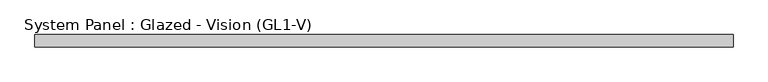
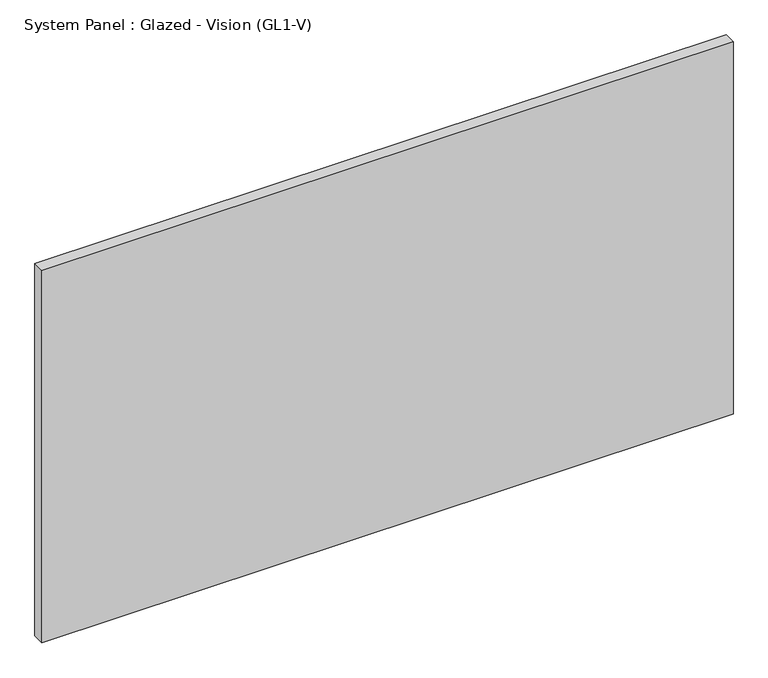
"""IFC4 building model written with IfcOpenShell, lengths in millimetres: plate geometry, System Panel : Glazed - Vision (GL1-V)."""

from ifc_helpers import new_model, si_unit, origin, origin_with_axes, place, context, project, spatial, polyline, outline, extrude, source, transform, mapped, element, save


def system_panel_glazed_vision_gl1_v_b588cf1e(model_context):
    return source(origin(), model_context, "Body", "SweptSolid", [
        extrude(outline(polyline([(730.25, -25.4), (-730.25, -25.4), (-730.25, 0.0), (730.25, 0.0), (730.25, -25.4)])), origin_with_axes(), (0.0, 0.0, 1.0), 831.85),
    ])


if __name__ == "__main__":
    model = new_model("IFC4")
    model_context = context("Model", 3, world=origin())
    ifc_project = project(units=[si_unit("LENGTHUNIT", "METRE", prefix="MILLI")], contexts=[model_context])
    site = spatial("IfcSite", under=ifc_project)
    building = spatial("IfcBuilding", under=site)
    placement = place(None, origin())
    system_panel_glazed_vision_gl1_v_shape = system_panel_glazed_vision_gl1_v_b588cf1e(model_context)
    element("IfcPlate", 1, ObjectType="System Panel : Glazed - Vision (GL1-V)", at=placement, inside=building, context=model_context, shape_type="MappedRepresentation", body=[
        mapped(system_panel_glazed_vision_gl1_v_shape, transform((0.0, 0.0, 0.0), x_axis=(1.0, 0.0, 0.0), y_axis=(0.0, 1.0, 0.0), z_axis=(0.0, 0.0, 1.0))),
    ])
    save(model, "model.ifc")
